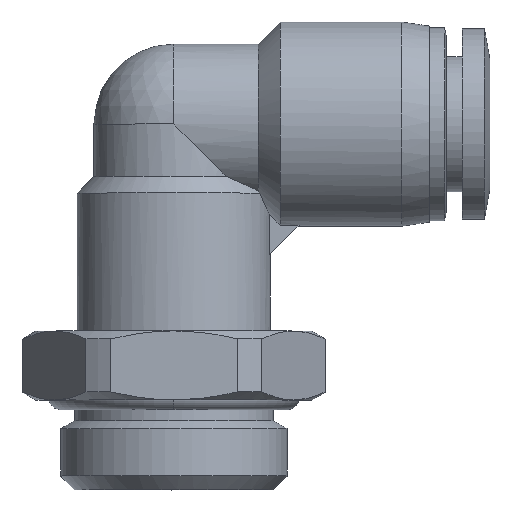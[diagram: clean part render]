
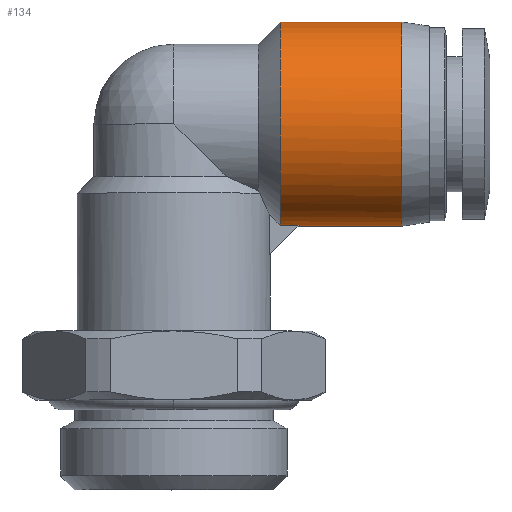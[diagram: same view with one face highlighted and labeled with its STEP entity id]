
A CAD part, top view. The second image highlights one B-rep face of the part: STEP entity #134.
In plain terms, the highlighted cylindrical face has radius 7.4 mm (diameter 14.8 mm), a partial arc.
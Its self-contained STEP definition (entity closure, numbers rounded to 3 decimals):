
#14 = CARTESIAN_POINT ( 'NONE',  ( 7.7, 8.093, 2.813 ) ) ;
#61 = ORIENTED_EDGE ( 'NONE', *, *, #2937, .T. ) ;
#134 = ADVANCED_FACE ( 'NONE', ( #958 ), #3731, .T. ) ;
#255 = CARTESIAN_POINT ( 'NONE',  ( 16.5, 21.466, 3.727 ) ) ;
#305 = CARTESIAN_POINT ( 'NONE',  ( 16.5, 22.4, 0.969 ) ) ;
#351 = CARTESIAN_POINT ( 'NONE',  ( 7.7, 11.044, 6.322 ) ) ;
#375 = CARTESIAN_POINT ( 'NONE',  ( 7.7, 21.04, 4.375 ) ) ;
#377 = CARTESIAN_POINT ( 'NONE',  ( 16.5, 9.082, 4.548 ) ) ;
#413 = VERTEX_POINT ( 'NONE', #1476 ) ;
#593 = CARTESIAN_POINT ( 'NONE',  ( 16.5, 22.207, 1.937 ) ) ;
#616 = AXIS2_PLACEMENT_3D ( 'NONE', #2070, #1348, #3049 ) ;
#636 = CARTESIAN_POINT ( 'NONE',  ( 9., 7.6, 0. ) ) ;
#686 = CARTESIAN_POINT ( 'NONE',  ( 7.7, 22.224, 1.853 ) ) ;
#714 = CARTESIAN_POINT ( 'NONE',  ( 16.5, 16.937, 7.207 ) ) ;
#735 = CARTESIAN_POINT ( 'NONE',  ( 16.5, 7.6, 0.969 ) ) ;
#877 = CARTESIAN_POINT ( 'NONE',  ( 9., 7.6, 0.333 ) ) ;
#918 = EDGE_CURVE ( 'NONE', #2649, #413, #1318, .T. ) ;
#958 = FACE_OUTER_BOUND ( 'NONE', #1607, .T. ) ;
#1095 = CARTESIAN_POINT ( 'NONE',  ( 7.7, 7.668, 1. ) ) ;
#1097 = CARTESIAN_POINT ( 'NONE',  ( 16.5, 13.063, 7.207 ) ) ;
#1173 = EDGE_CURVE ( 'NONE', #2452, #2036, #2345, .T. ) ;
#1314 = CARTESIAN_POINT ( 'NONE',  ( 7.7, 7.668, 1. ) ) ;
#1318 = B_SPLINE_CURVE_WITH_KNOTS ( 'NONE', 3,
 ( #2021, #305, #593, #255, #3822, #1483, #2453, #714, #2178, #1820, #1097, #1841, #1394, #377, #3844, #1415, #735, #4136 ),
 .UNSPECIFIED., .F., .F.,
 ( 4, 2, 2, 2, 2, 2, 2, 2, 4 ),
 ( 0., 0.063, 0.125, 0.188, 0.25, 0.313, 0.375, 0.438, 0.5 ),
 .UNSPECIFIED. ) ;
#1348 = DIRECTION ( 'NONE',  ( 1., 0., 0. ) ) ;
#1369 = CARTESIAN_POINT ( 'NONE',  ( 7.7, 19.774, 5.73 ) ) ;
#1394 = CARTESIAN_POINT ( 'NONE',  ( 16.5, 10.452, 5.918 ) ) ;
#1402 = CARTESIAN_POINT ( 'NONE',  ( 16.5, 22.4, 0. ) ) ;
#1415 = CARTESIAN_POINT ( 'NONE',  ( 16.5, 7.793, 1.937 ) ) ;
#1437 = CARTESIAN_POINT ( 'NONE',  ( 7.7, 13.64, 7.333 ) ) ;
#1457 = CARTESIAN_POINT ( 'NONE',  ( 9.068, 7.668, 1. ) ) ;
#1470 = CARTESIAN_POINT ( 'NONE',  ( 9.068, 7.668, 1. ) ) ;
#1476 = CARTESIAN_POINT ( 'NONE',  ( 16.5, 7.6, 0. ) ) ;
#1483 = CARTESIAN_POINT ( 'NONE',  ( 16.5, 19.548, 5.918 ) ) ;
#1607 = EDGE_LOOP ( 'NONE', ( #3597, #61, #3719, #2023, #3938, #1627 ) ) ;
#1627 = ORIENTED_EDGE ( 'NONE', *, *, #1173, .F. ) ;
#1703 = CARTESIAN_POINT ( 'NONE',  ( 7.7, 22.4, 0. ) ) ;
#1728 = CARTESIAN_POINT ( 'NONE',  ( 7.7, 9., 4.429 ) ) ;
#1820 = CARTESIAN_POINT ( 'NONE',  ( 16.5, 14.031, 7.4 ) ) ;
#1841 = CARTESIAN_POINT ( 'NONE',  ( 16.5, 11.273, 6.466 ) ) ;
#1957 = DIRECTION ( 'NONE',  ( 1., 0., 0. ) ) ;
#1966 = EDGE_CURVE ( 'NONE', #3121, #2452, #3980, .T. ) ;
#2021 = CARTESIAN_POINT ( 'NONE',  ( 16.5, 22.4, 0. ) ) ;
#2023 = ORIENTED_EDGE ( 'NONE', *, *, #4002, .F. ) ;
#2036 = VERTEX_POINT ( 'NONE', #2296 ) ;
#2067 = CARTESIAN_POINT ( 'NONE',  ( 7.7, 11.874, 6.771 ) ) ;
#2070 = CARTESIAN_POINT ( 'NONE',  ( 12.1, 15., 0. ) ) ;
#2074 = VECTOR ( 'NONE', #1957, 1000. ) ;
#2178 = CARTESIAN_POINT ( 'NONE',  ( 16.5, 15.969, 7.4 ) ) ;
#2256 = CARTESIAN_POINT ( 'NONE',  ( 9.023, 7.622, 0.667 ) ) ;
#2296 = CARTESIAN_POINT ( 'NONE',  ( 7.7, 7.668, 1. ) ) ;
#2345 = B_SPLINE_CURVE_WITH_KNOTS ( 'NONE', 3,
 ( #4395, #2350, #4442, #1314 ),
 .UNSPECIFIED., .F., .F.,
 ( 4, 4 ),
 ( 0., 1. ),
 .UNSPECIFIED. ) ;
#2350 = CARTESIAN_POINT ( 'NONE',  ( 8.612, 7.668, 1. ) ) ;
#2413 = VERTEX_POINT ( 'NONE', #1703 ) ;
#2428 = CARTESIAN_POINT ( 'NONE',  ( 7.7, 22.4, 0.927 ) ) ;
#2452 = VERTEX_POINT ( 'NONE', #1457 ) ;
#2453 = CARTESIAN_POINT ( 'NONE',  ( 16.5, 18.727, 6.466 ) ) ;
#2527 = B_SPLINE_CURVE_WITH_KNOTS ( 'NONE', 3,
 ( #4090, #2428, #686, #3752, #375, #1369, #2736, #3478, #4111, #2758, #1437, #2067, #351, #3436, #1728, #14, #2781, #1095 ),
 .UNSPECIFIED., .F., .F.,
 ( 4, 2, 2, 2, 2, 2, 2, 2, 4 ),
 ( 0.5, 0.563, 0.625, 0.688, 0.75, 0.813, 0.875, 0.938, 1. ),
 .UNSPECIFIED. ) ;
#2627 = LINE ( 'NONE', #4359, #2074 ) ;
#2649 = VERTEX_POINT ( 'NONE', #1402 ) ;
#2736 = CARTESIAN_POINT ( 'NONE',  ( 7.7, 19.013, 6.286 ) ) ;
#2758 = CARTESIAN_POINT ( 'NONE',  ( 7.7, 14.576, 7.446 ) ) ;
#2781 = CARTESIAN_POINT ( 'NONE',  ( 7.7, 7.793, 1.918 ) ) ;
#2937 = EDGE_CURVE ( 'NONE', #3121, #413, #2627, .T. ) ;
#3049 = DIRECTION ( 'NONE',  ( 0., 1., 0. ) ) ;
#3121 = VERTEX_POINT ( 'NONE', #636 ) ;
#3294 = CARTESIAN_POINT ( 'NONE',  ( 12.1, 22.4, 0. ) ) ;
#3320 = EDGE_CURVE ( 'NONE', #2413, #2036, #2527, .T. ) ;
#3340 = VECTOR ( 'NONE', #4012, 1000. ) ;
#3436 = CARTESIAN_POINT ( 'NONE',  ( 7.7, 9.607, 5.151 ) ) ;
#3478 = CARTESIAN_POINT ( 'NONE',  ( 7.7, 17.338, 7.082 ) ) ;
#3597 = ORIENTED_EDGE ( 'NONE', *, *, #1966, .F. ) ;
#3651 = LINE ( 'NONE', #3294, #3340 ) ;
#3719 = ORIENTED_EDGE ( 'NONE', *, *, #918, .F. ) ;
#3731 = CYLINDRICAL_SURFACE ( 'NONE', #616, 7.4 ) ;
#3752 = CARTESIAN_POINT ( 'NONE',  ( 7.7, 21.544, 3.578 ) ) ;
#3822 = CARTESIAN_POINT ( 'NONE',  ( 16.5, 20.918, 4.548 ) ) ;
#3844 = CARTESIAN_POINT ( 'NONE',  ( 16.5, 8.534, 3.727 ) ) ;
#3938 = ORIENTED_EDGE ( 'NONE', *, *, #3320, .T. ) ;
#3960 = CARTESIAN_POINT ( 'NONE',  ( 9., 7.6, 0. ) ) ;
#3980 = B_SPLINE_CURVE_WITH_KNOTS ( 'NONE', 3,
 ( #3960, #877, #2256, #1470 ),
 .UNSPECIFIED., .F., .F.,
 ( 4, 4 ),
 ( 0.5, 1. ),
 .UNSPECIFIED. ) ;
#4002 = EDGE_CURVE ( 'NONE', #2413, #2649, #3651, .T. ) ;
#4012 = DIRECTION ( 'NONE',  ( 1., 0., 0. ) ) ;
#4090 = CARTESIAN_POINT ( 'NONE',  ( 7.7, 22.4, 0. ) ) ;
#4111 = CARTESIAN_POINT ( 'NONE',  ( 7.7, 16.426, 7.32 ) ) ;
#4136 = CARTESIAN_POINT ( 'NONE',  ( 16.5, 7.6, 0. ) ) ;
#4359 = CARTESIAN_POINT ( 'NONE',  ( 12.1, 7.6, 0. ) ) ;
#4395 = CARTESIAN_POINT ( 'NONE',  ( 9.068, 7.668, 1. ) ) ;
#4442 = CARTESIAN_POINT ( 'NONE',  ( 8.156, 7.668, 1. ) ) ;
